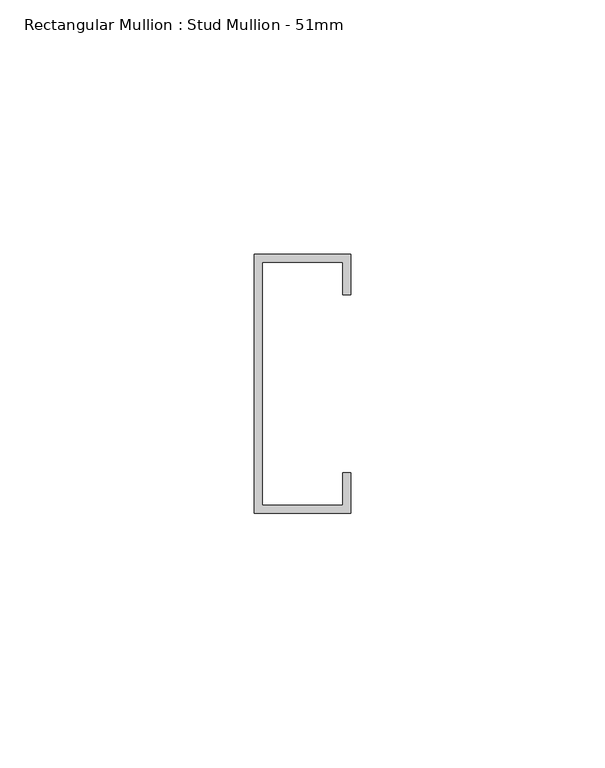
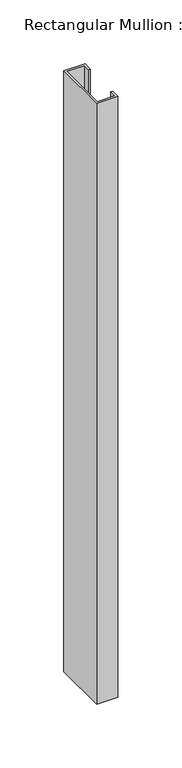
"""IFC4 building model written with IfcOpenShell, lengths in millimetres: member geometry, Rectangular Mullion : Stud Mullion - 51mm."""

from ifc_helpers import new_model, si_unit, frame, origin, place, context, project, spatial, polyline, outline, extrude, source, transform, mapped, element, save


def rectangular_mullion_stud_mullion_51mm_b3de19a5(model_context):
    return source(origin(), model_context, "Body", "SweptSolid", [
        extrude(outline(polyline([(0.0, 17.5), (-1.6, 17.5), (-1.6, 23.9), (-17.4, 23.9), (-17.4, -23.9), (-1.6, -23.9), (-1.6, -17.5), (0.0, -17.5), (0.0, -25.5), (-19.0, -25.5), (-19.0, 25.5), (0.0, 25.5), (0.0, 17.5)])), frame((0.0, 0.0, -573.1000002), z_axis=(0.0, 0.0, 1.0), x_axis=(1.0, 0.0, 0.0)), (0.0, 0.0, 1.0), 573.1000002),
    ])


if __name__ == "__main__":
    model = new_model("IFC4")
    model_context = context("Model", 3, world=origin())
    ifc_project = project(units=[si_unit("LENGTHUNIT", "METRE", prefix="MILLI")], contexts=[model_context])
    site = spatial("IfcSite", under=ifc_project)
    building = spatial("IfcBuilding", under=site)
    placement = place(None, origin())
    rectangular_mullion_stud_mullion_51mm_shape = rectangular_mullion_stud_mullion_51mm_b3de19a5(model_context)
    element("IfcMember", 1, ObjectType="Rectangular Mullion : Stud Mullion - 51mm", at=placement, inside=building, context=model_context, shape_type="MappedRepresentation", body=[
        mapped(rectangular_mullion_stud_mullion_51mm_shape, transform((0.0, 0.0, 0.0), x_axis=(1.0, 0.0, 0.0), y_axis=(0.0, 1.0, 0.0), z_axis=(0.0, 0.0, 1.0))),
    ])
    save(model, "model.ifc")
